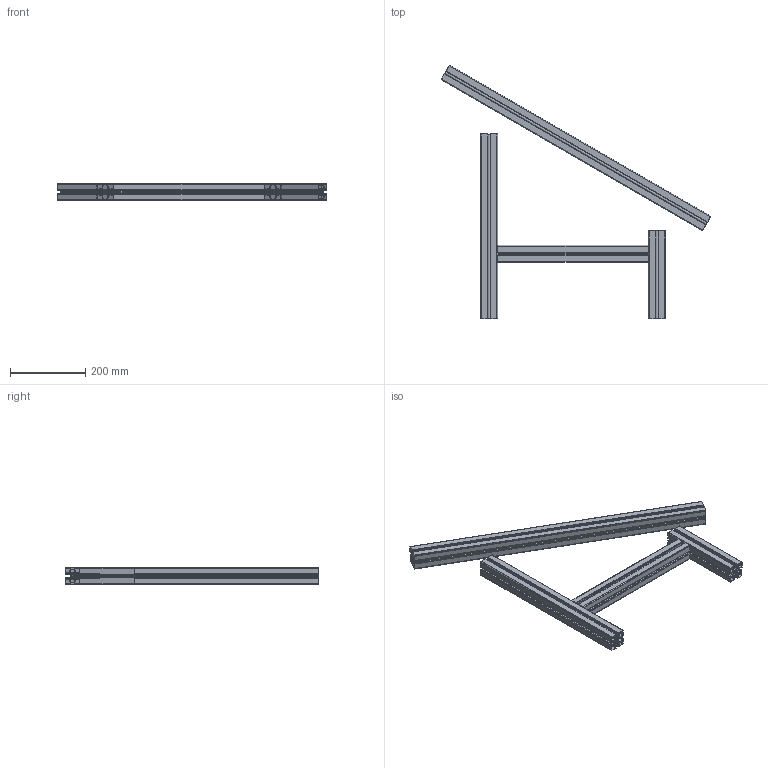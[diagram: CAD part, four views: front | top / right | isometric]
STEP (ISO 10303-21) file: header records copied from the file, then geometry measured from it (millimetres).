
FILE_DESCRIPTION (( 'STEP AP203' ), '1' );
FILE_NAME ('084.106.311.STEP', '2013-01-23T13:43:31', ( 'Alusic' ), ( 'Alusic' ), 'SwSTEP 2.0', 'SolidWorks 2011', '' );
FILE_SCHEMA (( 'CONFIG_CONTROL_DESIGN' ));
Length unit declared in the file: millimetre
Products named in the file (1): 084.106.311
Bounding box: 715.32 x 672.51 x 45 mm (x, y, z)
Volume: 822695.2 mm3; surface area: 1184497 mm2
Topology: 4 solids, 4 shells, 616 faces, 1806 edges, 1196 vertices
Faces by surface type: plane 334, cylinder 282
Entity records: 20743 total; most frequent: CARTESIAN_POINT 3897, ORIENTED_EDGE 3612, DIRECTION 3480, EDGE_CURVE 1806, VECTOR 1250, LINE 1250, VERTEX_POINT 1196, AXIS2_PLACEMENT_3D 1115
